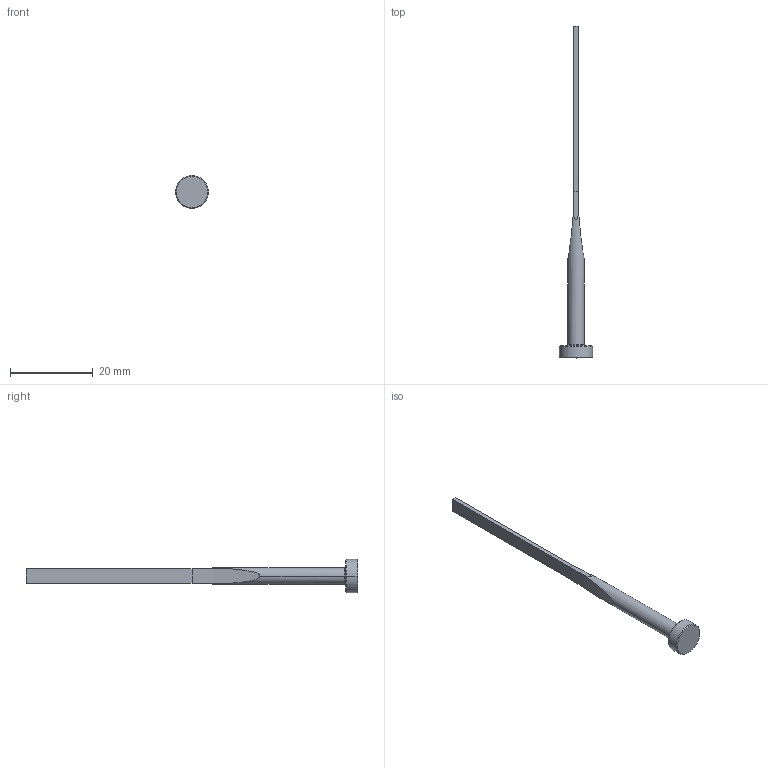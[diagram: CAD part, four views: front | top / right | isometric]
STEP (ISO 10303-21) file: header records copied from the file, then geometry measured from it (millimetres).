
FILE_DESCRIPTION (( 'STEP AP203' ), '1' );
FILE_NAME ('BE4-1.0L80.step', '2020-08-22T07:06:12', ( 'Microsoft Corporation' ), ( 'MS' ), 'SwSTEP 2.0', 'SolidWorks 2018', '' );
FILE_SCHEMA (( 'CONFIG_CONTROL_DESIGN' ));
Length unit declared in the file: millimetre
Products named in the file (1): BE4-1.0L80
Bounding box: 8 x 80 x 8 mm (x, y, z)
Volume: 667.8 mm3; surface area: 955.6 mm2
Topology: 1 solids, 1 shells, 21 faces, 44 edges, 26 vertices
Faces by surface type: cylinder 8, plane 7, cone 4, torus 2
Entity records: 739 total; most frequent: CARTESIAN_POINT 226, DIRECTION 92, ORIENTED_EDGE 88, EDGE_CURVE 44, AXIS2_PLACEMENT_3D 36, VERTEX_POINT 26, EDGE_LOOP 22, ADVANCED_FACE 21
